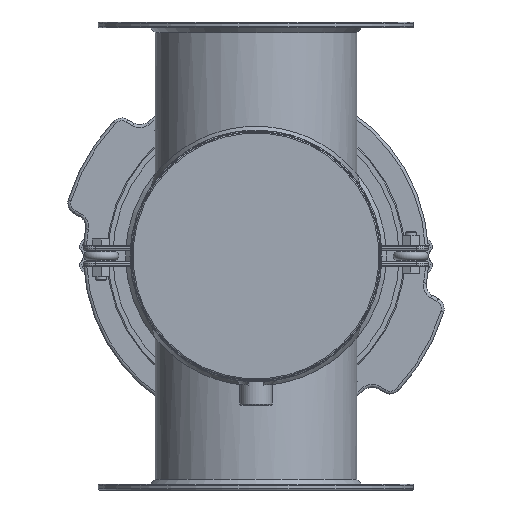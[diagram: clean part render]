
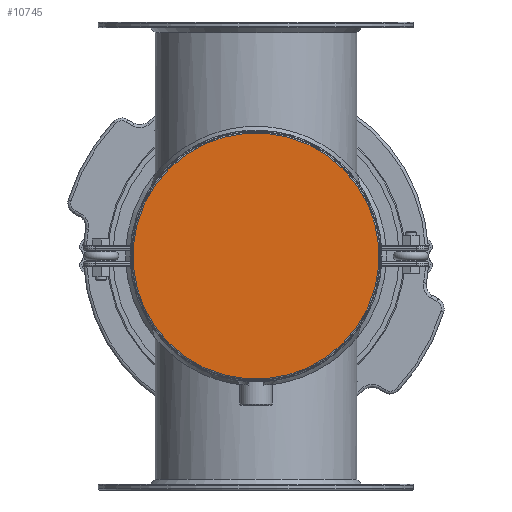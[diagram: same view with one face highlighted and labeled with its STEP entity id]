
A CAD part, front view. The second image highlights one B-rep face of the part: STEP entity #10745.
In plain terms, the highlighted planar face has unit normal (0, -1, 0).
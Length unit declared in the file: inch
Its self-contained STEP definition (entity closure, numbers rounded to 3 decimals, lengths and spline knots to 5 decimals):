
#1098=CIRCLE('',#11556,5.2625);
#2326=FACE_OUTER_BOUND('',#3076,.T.);
#3076=EDGE_LOOP('',(#7883));
#5137=VERTEX_POINT('',#19547);
#6146=EDGE_CURVE('',#5137,#5137,#1098,.T.);
#7883=ORIENTED_EDGE('',*,*,#6146,.F.);
#10485=PLANE('',#11559);
#10745=ADVANCED_FACE('',(#2326),#10485,.F.);
#11556=AXIS2_PLACEMENT_3D('',#19548,#13427,#13428);
#11559=AXIS2_PLACEMENT_3D('',#19552,#13433,#13434);
#13427=DIRECTION('center_axis',(0.,1.,0.));
#13428=DIRECTION('ref_axis',(1.,0.,0.));
#13433=DIRECTION('center_axis',(0.,1.,0.));
#13434=DIRECTION('ref_axis',(0.,0.,1.));
#19547=CARTESIAN_POINT('',(-5.2625,0.,0.));
#19548=CARTESIAN_POINT('Origin',(0.,0.,0.));
#19552=CARTESIAN_POINT('Origin',(0.,0.,0.));
